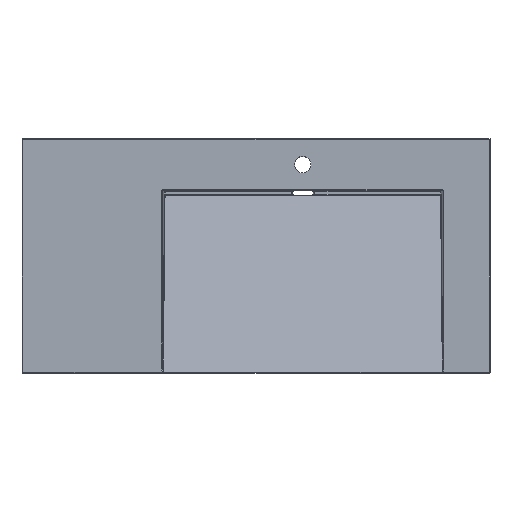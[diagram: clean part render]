
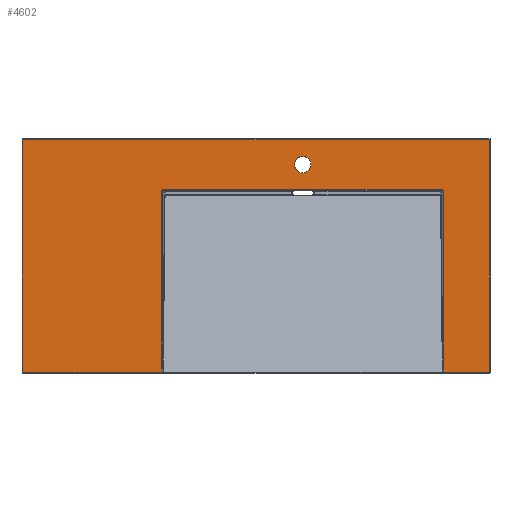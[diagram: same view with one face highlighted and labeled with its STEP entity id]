
A CAD part, top view. The second image highlights one B-rep face of the part: STEP entity #4602.
In plain terms, the highlighted planar face has unit normal (0, 0, 1).
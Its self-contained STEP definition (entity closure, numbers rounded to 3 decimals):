
#124 = VERTEX_POINT ( 'NONE', #3175 ) ;
#149 = CARTESIAN_POINT ( 'NONE',  ( -201.449, -242.186, 125. ) ) ;
#193 = ORIENTED_EDGE ( 'NONE', *, *, #3573, .T. ) ;
#371 = CARTESIAN_POINT ( 'NONE',  ( -201.449, 140.05, 125. ) ) ;
#396 = CARTESIAN_POINT ( 'NONE',  ( -197.946, 141.5, 125. ) ) ;
#460 = CARTESIAN_POINT ( 'NONE',  ( 401.449, 0., 125. ) ) ;
#475 = FACE_BOUND ( 'NONE', #5061, .T. ) ;
#489 = VECTOR ( 'NONE', #7173, 1000. ) ;
#491 = VERTEX_POINT ( 'NONE', #791 ) ;
#492 = CARTESIAN_POINT ( 'NONE',  ( 500., -248.5, 125. ) ) ;
#510 = CARTESIAN_POINT ( 'NONE',  ( -498.5, -250., 125. ) ) ;
#539 = VERTEX_POINT ( 'NONE', #1388 ) ;
#552 = CARTESIAN_POINT ( 'NONE',  ( -201.165, -248.5, 125. ) ) ;
#562 = ORIENTED_EDGE ( 'NONE', *, *, #4117, .T. ) ;
#613 = CARTESIAN_POINT ( 'NONE',  ( 100., 195., 125. ) ) ;
#746 = DIRECTION ( 'NONE',  ( -1., 0., 0. ) ) ;
#776 = CARTESIAN_POINT ( 'NONE',  ( -498.5, -248.5, 125. ) ) ;
#791 = CARTESIAN_POINT ( 'NONE',  ( 498.5, -248.5, 125. ) ) ;
#833 = ORIENTED_EDGE ( 'NONE', *, *, #1825, .T. ) ;
#907 = EDGE_CURVE ( 'NONE', #2644, #4130, #7123, .T. ) ;
#1136 = CARTESIAN_POINT ( 'NONE',  ( 82.5, 195., 125. ) ) ;
#1169 = AXIS2_PLACEMENT_3D ( 'NONE', #613, #4561, #1200 ) ;
#1200 = DIRECTION ( 'NONE',  ( 1., 0., 0. ) ) ;
#1264 = EDGE_CURVE ( 'NONE', #4217, #6700, #4913, .T. ) ;
#1335 = VECTOR ( 'NONE', #5018, 1000. ) ;
#1388 = CARTESIAN_POINT ( 'NONE',  ( -498.5, 248.5, 125. ) ) ;
#1480 = EDGE_CURVE ( 'NONE', #2085, #491, #5807, .T. ) ;
#1613 = VERTEX_POINT ( 'NONE', #5647 ) ;
#1680 = ORIENTED_EDGE ( 'NONE', *, *, #5695, .T. ) ;
#1688 = LINE ( 'NONE', #510, #1335 ) ;
#1798 = LINE ( 'NONE', #4107, #6244 ) ;
#1804 = DIRECTION ( 'NONE',  ( 0., 0., 1. ) ) ;
#1825 = EDGE_CURVE ( 'NONE', #3749, #1613, #7192, .T. ) ;
#1879 =( BOUNDED_CURVE ( )  B_SPLINE_CURVE ( 3, ( #4529, #3384, #5643, #2285 ),
 .UNSPECIFIED., .F., .F. ) 
 B_SPLINE_CURVE_WITH_KNOTS ( ( 4, 4 ),
 ( 1.607, 2.629 ),
 .UNSPECIFIED. ) 
 CURVE ( )  GEOMETRIC_REPRESENTATION_ITEM ( )  RATIONAL_B_SPLINE_CURVE ( ( 1., 0.915, 0.915, 1. ) ) 
 REPRESENTATION_ITEM ( '' )  );
#1916 = ORIENTED_EDGE ( 'NONE', *, *, #4557, .T. ) ;
#1985 = DIRECTION ( 'NONE',  ( 0., 0., 1. ) ) ;
#2001 = EDGE_CURVE ( 'NONE', #539, #5394, #1688, .T. ) ;
#2007 = VECTOR ( 'NONE', #2263, 1000. ) ;
#2085 = VERTEX_POINT ( 'NONE', #4504 ) ;
#2263 = DIRECTION ( 'NONE',  ( 1., 0., 0. ) ) ;
#2285 = CARTESIAN_POINT ( 'NONE',  ( 399.772, -248.5, 125. ) ) ;
#2376 = VECTOR ( 'NONE', #6405, 1000. ) ;
#2497 = VERTEX_POINT ( 'NONE', #5586 ) ;
#2551 = CARTESIAN_POINT ( 'NONE',  ( 397.946, 141.5, 125. ) ) ;
#2644 = VERTEX_POINT ( 'NONE', #6938 ) ;
#2792 = CARTESIAN_POINT ( 'NONE',  ( 498.5, 250., 125. ) ) ;
#2882 = PLANE ( 'NONE',  #3481 ) ;
#2937 = VECTOR ( 'NONE', #4495, 1000. ) ;
#2943 = CARTESIAN_POINT ( 'NONE',  ( 401.449, 140.05, 125. ) ) ;
#3110 = VECTOR ( 'NONE', #7275, 1000. ) ;
#3175 = CARTESIAN_POINT ( 'NONE',  ( -199.772, -248.5, 125. ) ) ;
#3294 =( BOUNDED_CURVE ( )  B_SPLINE_CURVE ( 3, ( #6851, #6266, #149, #4074 ),
 .UNSPECIFIED., .F., .F. ) 
 B_SPLINE_CURVE_WITH_KNOTS ( ( 4, 4 ),
 ( 0.512, 1.535 ),
 .UNSPECIFIED. ) 
 CURVE ( )  GEOMETRIC_REPRESENTATION_ITEM ( )  RATIONAL_B_SPLINE_CURVE ( ( 1., 0.915, 0.915, 1. ) ) 
 REPRESENTATION_ITEM ( '' )  );
#3384 = CARTESIAN_POINT ( 'NONE',  ( 401.449, -242.186, 125. ) ) ;
#3468 = EDGE_CURVE ( 'NONE', #6700, #6485, #6440, .T. ) ;
#3481 = AXIS2_PLACEMENT_3D ( 'NONE', #4020, #1804, #5711 ) ;
#3495 = CARTESIAN_POINT ( 'NONE',  ( -201.449, -237.504, 125. ) ) ;
#3573 = EDGE_CURVE ( 'NONE', #491, #4518, #5758, .T. ) ;
#3616 = CIRCLE ( 'NONE', #1169, 17.5 ) ;
#3749 = VERTEX_POINT ( 'NONE', #3495 ) ;
#3763 = CARTESIAN_POINT ( 'NONE',  ( -199.998, 141.5, 125. ) ) ;
#3784 = AXIS2_PLACEMENT_3D ( 'NONE', #5343, #1985, #5890 ) ;
#3952 = ORIENTED_EDGE ( 'NONE', *, *, #5606, .F. ) ;
#3979 = CARTESIAN_POINT ( 'NONE',  ( 401.449, -237.504, 125. ) ) ;
#4020 = CARTESIAN_POINT ( 'NONE',  ( 0., 0., 125. ) ) ;
#4041 = ORIENTED_EDGE ( 'NONE', *, *, #6587, .T. ) ;
#4074 = CARTESIAN_POINT ( 'NONE',  ( -201.449, -237.504, 125. ) ) ;
#4107 = CARTESIAN_POINT ( 'NONE',  ( -500., 248.5, 125. ) ) ;
#4117 = EDGE_CURVE ( 'NONE', #5394, #124, #4452, .T. ) ;
#4130 = VERTEX_POINT ( 'NONE', #1136 ) ;
#4217 = VERTEX_POINT ( 'NONE', #2551 ) ;
#4244 = ORIENTED_EDGE ( 'NONE', *, *, #2001, .T. ) ;
#4251 = ORIENTED_EDGE ( 'NONE', *, *, #907, .F. ) ;
#4309 = EDGE_CURVE ( 'NONE', #1613, #2497, #5777, .T. ) ;
#4436 = DIRECTION ( 'NONE',  ( 1., 0., 0. ) ) ;
#4452 = LINE ( 'NONE', #552, #2937 ) ;
#4495 = DIRECTION ( 'NONE',  ( 1., 0., 0. ) ) ;
#4504 = CARTESIAN_POINT ( 'NONE',  ( 399.772, -248.5, 125. ) ) ;
#4518 = VERTEX_POINT ( 'NONE', #7276 ) ;
#4529 = CARTESIAN_POINT ( 'NONE',  ( 401.449, -237.504, 125. ) ) ;
#4557 = EDGE_CURVE ( 'NONE', #6485, #2085, #1879, .T. ) ;
#4561 = DIRECTION ( 'NONE',  ( 0., 0., 1. ) ) ;
#4602 = ADVANCED_FACE ( 'NONE', ( #6260, #475 ), #2882, .T. ) ;
#4880 = CARTESIAN_POINT ( 'NONE',  ( -201.449, 138., 125. ) ) ;
#4904 = ORIENTED_EDGE ( 'NONE', *, *, #1480, .T. ) ;
#4913 =( BOUNDED_CURVE ( )  B_SPLINE_CURVE ( 3, ( #5720, #6290, #2943, #6862 ),
 .UNSPECIFIED., .F., .F. ) 
 B_SPLINE_CURVE_WITH_KNOTS ( ( 4, 4 ),
 ( 4.712, 6.283 ),
 .UNSPECIFIED. ) 
 CURVE ( )  GEOMETRIC_REPRESENTATION_ITEM ( )  RATIONAL_B_SPLINE_CURVE ( ( 1., 0.805, 0.805, 1. ) ) 
 REPRESENTATION_ITEM ( '' )  );
#5018 = DIRECTION ( 'NONE',  ( 0., -1., 0. ) ) ;
#5061 = EDGE_LOOP ( 'NONE', ( #4251, #3952 ) ) ;
#5343 = CARTESIAN_POINT ( 'NONE',  ( 100., 195., 125. ) ) ;
#5394 = VERTEX_POINT ( 'NONE', #776 ) ;
#5586 = CARTESIAN_POINT ( 'NONE',  ( -197.946, 141.5, 125. ) ) ;
#5606 = EDGE_CURVE ( 'NONE', #4130, #2644, #3616, .T. ) ;
#5635 = VECTOR ( 'NONE', #4436, 1000. ) ;
#5643 = CARTESIAN_POINT ( 'NONE',  ( 400.838, -246.193, 125. ) ) ;
#5647 = CARTESIAN_POINT ( 'NONE',  ( -201.449, 138., 125. ) ) ;
#5695 = EDGE_CURVE ( 'NONE', #4518, #539, #1798, .T. ) ;
#5711 = DIRECTION ( 'NONE',  ( 1., 0., 0. ) ) ;
#5720 = CARTESIAN_POINT ( 'NONE',  ( 397.946, 141.5, 125. ) ) ;
#5758 = LINE ( 'NONE', #2792, #3110 ) ;
#5777 =( BOUNDED_CURVE ( )  B_SPLINE_CURVE ( 3, ( #4880, #371, #3763, #396 ),
 .UNSPECIFIED., .F., .F. ) 
 B_SPLINE_CURVE_WITH_KNOTS ( ( 4, 4 ),
 ( 3.142, 4.712 ),
 .UNSPECIFIED. ) 
 CURVE ( )  GEOMETRIC_REPRESENTATION_ITEM ( )  RATIONAL_B_SPLINE_CURVE ( ( 1., 0.805, 0.805, 1. ) ) 
 REPRESENTATION_ITEM ( '' )  );
#5807 = LINE ( 'NONE', #492, #5635 ) ;
#5890 = DIRECTION ( 'NONE',  ( 1., 0., 0. ) ) ;
#6057 = EDGE_LOOP ( 'NONE', ( #4244, #562, #4041, #833, #6304, #6579, #6612, #6060, #1916, #4904, #193, #1680 ) ) ;
#6060 = ORIENTED_EDGE ( 'NONE', *, *, #3468, .T. ) ;
#6244 = VECTOR ( 'NONE', #746, 1000. ) ;
#6260 = FACE_OUTER_BOUND ( 'NONE', #6057, .T. ) ;
#6266 = CARTESIAN_POINT ( 'NONE',  ( -200.838, -246.193, 125. ) ) ;
#6290 = CARTESIAN_POINT ( 'NONE',  ( 399.998, 141.5, 125. ) ) ;
#6304 = ORIENTED_EDGE ( 'NONE', *, *, #4309, .T. ) ;
#6405 = DIRECTION ( 'NONE',  ( 0., 1., 0. ) ) ;
#6440 = LINE ( 'NONE', #460, #489 ) ;
#6455 = LINE ( 'NONE', #7190, #2007 ) ;
#6485 = VERTEX_POINT ( 'NONE', #3979 ) ;
#6575 = CARTESIAN_POINT ( 'NONE',  ( 401.449, 138., 125. ) ) ;
#6579 = ORIENTED_EDGE ( 'NONE', *, *, #6789, .T. ) ;
#6587 = EDGE_CURVE ( 'NONE', #124, #3749, #3294, .T. ) ;
#6612 = ORIENTED_EDGE ( 'NONE', *, *, #1264, .T. ) ;
#6700 = VERTEX_POINT ( 'NONE', #6575 ) ;
#6789 = EDGE_CURVE ( 'NONE', #2497, #4217, #6455, .T. ) ;
#6851 = CARTESIAN_POINT ( 'NONE',  ( -199.772, -248.5, 125. ) ) ;
#6862 = CARTESIAN_POINT ( 'NONE',  ( 401.449, 138., 125. ) ) ;
#6938 = CARTESIAN_POINT ( 'NONE',  ( 117.5, 195., 125. ) ) ;
#6978 = CARTESIAN_POINT ( 'NONE',  ( -201.449, 0., 125. ) ) ;
#7123 = CIRCLE ( 'NONE', #3784, 17.5 ) ;
#7173 = DIRECTION ( 'NONE',  ( 0., -1., 0. ) ) ;
#7190 = CARTESIAN_POINT ( 'NONE',  ( 0., 141.5, 125. ) ) ;
#7192 = LINE ( 'NONE', #6978, #2376 ) ;
#7275 = DIRECTION ( 'NONE',  ( 0., 1., 0. ) ) ;
#7276 = CARTESIAN_POINT ( 'NONE',  ( 498.5, 248.5, 125. ) ) ;
